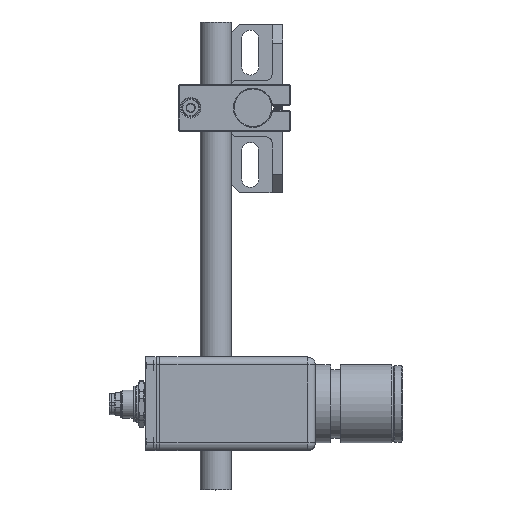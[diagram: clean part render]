
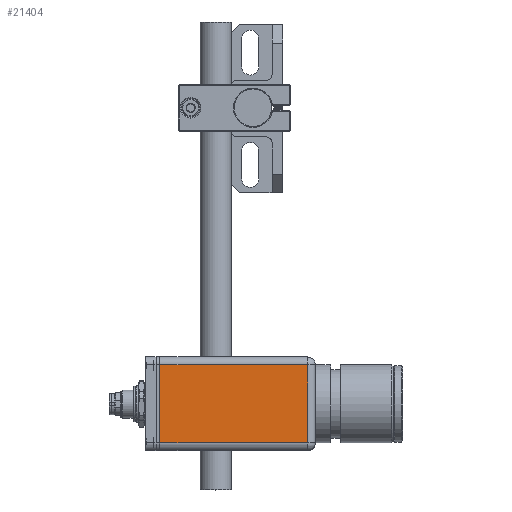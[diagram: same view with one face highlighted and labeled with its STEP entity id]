
A CAD part, top view. The second image highlights one B-rep face of the part: STEP entity #21404.
In plain terms, the highlighted planar face has unit normal (0, 0, 1) as drawn and (0, 1, 0) by its records, which use the part's own axes.
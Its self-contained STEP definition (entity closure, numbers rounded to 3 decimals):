
#20525=CARTESIAN_POINT('',(0.15,32.5,-12.5));
#20526=VERTEX_POINT('',#20525);
#20591=CARTESIAN_POINT('',(0.15,32.5,12.5));
#20592=VERTEX_POINT('',#20591);
#20599=CARTESIAN_POINT('',(0.15,32.5,12.5));
#20600=DIRECTION('',(0.0,0.0,-1.0));
#20601=VECTOR('',#20600,25.);
#20602=LINE('',#20599,#20601);
#20603=EDGE_CURVE('',#20592,#20526,#20602,.T.);
#21119=CARTESIAN_POINT('',(47.5,32.5,-12.5));
#21120=VERTEX_POINT('',#21119);
#21179=CARTESIAN_POINT('',(47.5,32.5,12.5));
#21180=VERTEX_POINT('',#21179);
#21220=CARTESIAN_POINT('',(47.5,32.5,12.5));
#21221=DIRECTION('',(-1.0,0.0,0.0));
#21222=VECTOR('',#21221,47.35);
#21223=LINE('',#21220,#21222);
#21224=EDGE_CURVE('',#21180,#20592,#21223,.T.);
#21263=CARTESIAN_POINT('',(47.5,32.5,-12.5));
#21264=DIRECTION('',(0.0,0.0,1.0));
#21265=VECTOR('',#21264,25.);
#21266=LINE('',#21263,#21265);
#21267=EDGE_CURVE('',#21120,#21180,#21266,.T.);
#21325=CARTESIAN_POINT('',(0.15,32.5,-12.5));
#21326=DIRECTION('',(1.0,0.0,0.0));
#21327=VECTOR('',#21326,47.35);
#21328=LINE('',#21325,#21327);
#21329=EDGE_CURVE('',#20526,#21120,#21328,.T.);
#21393=CARTESIAN_POINT('',(0.,32.5,15.));
#21394=DIRECTION('',(0.0,1.0,0.0));
#21395=DIRECTION('',(0.0,0.0,1.0));
#21396=AXIS2_PLACEMENT_3D('',#21393,#21394,#21395);
#21397=PLANE('',#21396);
#21398=ORIENTED_EDGE('',*,*,#20603,.F.);
#21399=ORIENTED_EDGE('',*,*,#21224,.F.);
#21400=ORIENTED_EDGE('',*,*,#21267,.F.);
#21401=ORIENTED_EDGE('',*,*,#21329,.F.);
#21402=EDGE_LOOP('',(#21398,#21399,#21400,#21401));
#21403=FACE_OUTER_BOUND('',#21402,.T.);
#21404=ADVANCED_FACE('',(#21403),#21397,.T.);
